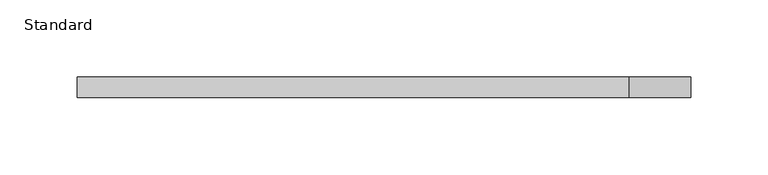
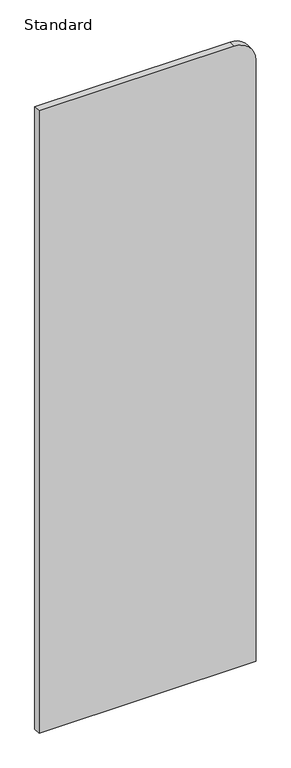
"""IFC4 building model written with IfcOpenShell, lengths in millimetres: furniture geometry, X_Partition-Compact Laminate-Duracube-Urinal : Standard."""

from ifc_helpers import new_model, si_unit, point, frame, frame_2d, origin, place, context, project, spatial, polyline, circle_curve, trimmed, segment, composite_curve, outline, extrude, source, transform, mapped, element, save


def standard_7e390e6c(model_context):
    return source(origin(), model_context, "Body", "SweptSolid", [
        extrude(outline(composite_curve([segment(trimmed(circle_curve(frame_2d((1360.0, 204.7003264)), 40.0), [point((1360.0, 244.7003264))], [point((1400.0, 204.7003264))], False, "CARTESIAN"), True, "CONTINUOUS"), segment(polyline([(1400.0, 204.7003264), (1400.0, -151.2996736), (200.0, -151.2996736), (200.0, 244.7003264), (1360.0, 244.7003264)]), True, "CONTINUOUS")], self_intersect=False)), frame((0.0, -13.0, 0.0), z_axis=(0.0, 1.0, 0.0), x_axis=(0.0, 0.0, 1.0)), (0.0, 0.0, 1.0), 13.0),
    ])


if __name__ == "__main__":
    model = new_model("IFC4")
    model_context = context("Model", 3, world=origin())
    ifc_project = project(units=[si_unit("LENGTHUNIT", "METRE", prefix="MILLI")], contexts=[model_context])
    site = spatial("IfcSite", under=ifc_project)
    building = spatial("IfcBuilding", under=site)
    placement = place(None, origin())
    standard_shape = standard_7e390e6c(model_context)
    element("IfcFurniture", 1, ObjectType="X_Partition-Compact Laminate-Duracube-Urinal : Standard", at=placement, inside=building, context=model_context, shape_type="MappedRepresentation", body=[
        mapped(standard_shape, transform((0.0, 0.0, 0.0), x_axis=(1.0, 0.0, 0.0), y_axis=(0.0, 1.0, 0.0), z_axis=(0.0, 0.0, 1.0))),
    ])
    save(model, "model.ifc")
